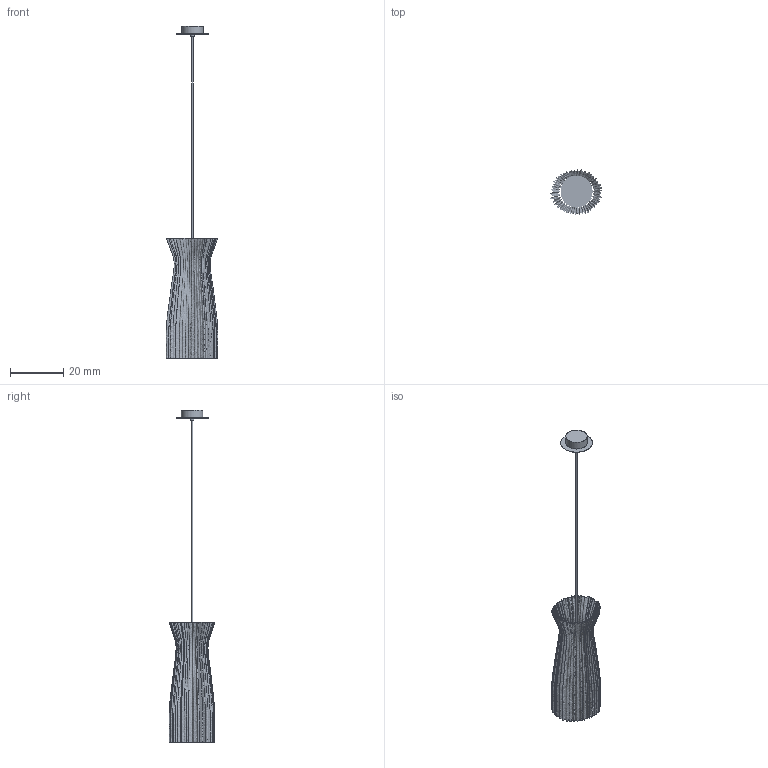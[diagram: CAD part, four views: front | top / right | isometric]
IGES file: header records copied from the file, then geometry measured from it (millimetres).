
Global section: file name: D:\3_IDENTIDAD CORPORATIVA\19 - ARCHIVOS DWG - IGS - DXF\_GEA\GE04_3D.igs; native system: Rhinoceros ( Apr  1 2010 ); preprocessor: Trout Lake IGES 012 Apr  1 2010; date: 110803.125937; units: millimetre
Bounding box: 19.28 x 17.11 x 124.52 mm (x, y, z)
Surface area: 4620.9 mm2 (no closed solid volume)
Topology: 0 solids, 0 shells, 41 faces, 184 edges, 166 vertices
Faces by surface type: bspline 41
